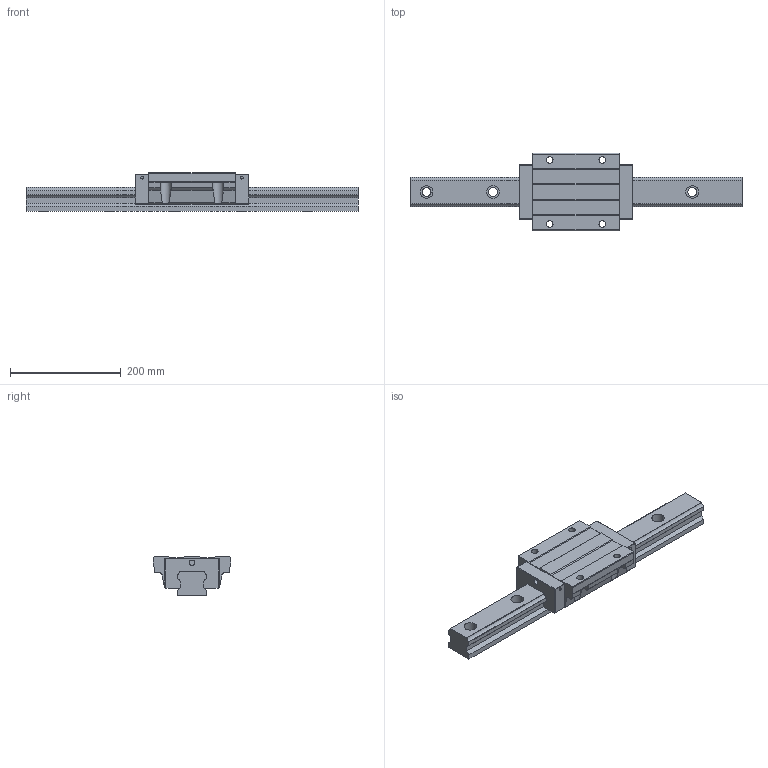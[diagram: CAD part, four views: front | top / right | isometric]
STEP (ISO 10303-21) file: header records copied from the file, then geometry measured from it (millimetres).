
FILE_DESCRIPTION (( 'STEP AP203' ), '1' );
FILE_NAME ('TRH55FE-SU.STEP', '2024-06-26T05:47:31', ( '' ), ( '' ), 'SwSTEP 2.0', 'SolidWorks 2022', '' );
FILE_SCHEMA (( 'CONFIG_CONTROL_DESIGN' ));
Length unit declared in the file: millimetre
Products named in the file (1): TRH55FE-SU
Bounding box: 600 x 140 x 70 mm (x, y, z)
Volume: 2117807 mm3; surface area: 240848.9 mm2
Topology: 2 solids, 2 shells, 219 faces, 596 edges, 388 vertices
Faces by surface type: plane 113, cylinder 102, sphere 4
Entity records: 7167 total; most frequent: CARTESIAN_POINT 1422, DIRECTION 1202, ORIENTED_EDGE 1184, EDGE_CURVE 592, AXIS2_PLACEMENT_3D 416, VERTEX_POINT 388, VECTOR 370, LINE 370
